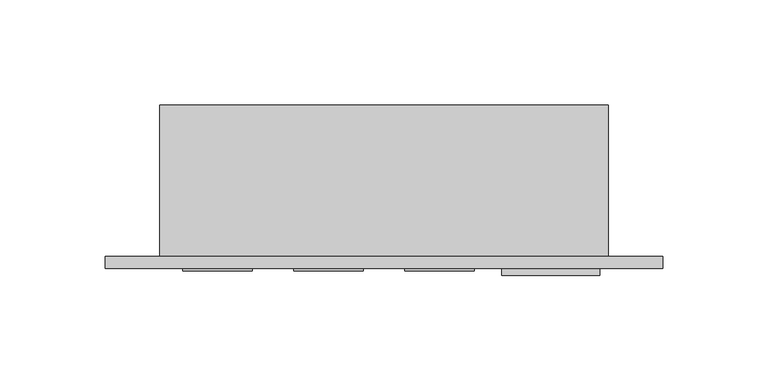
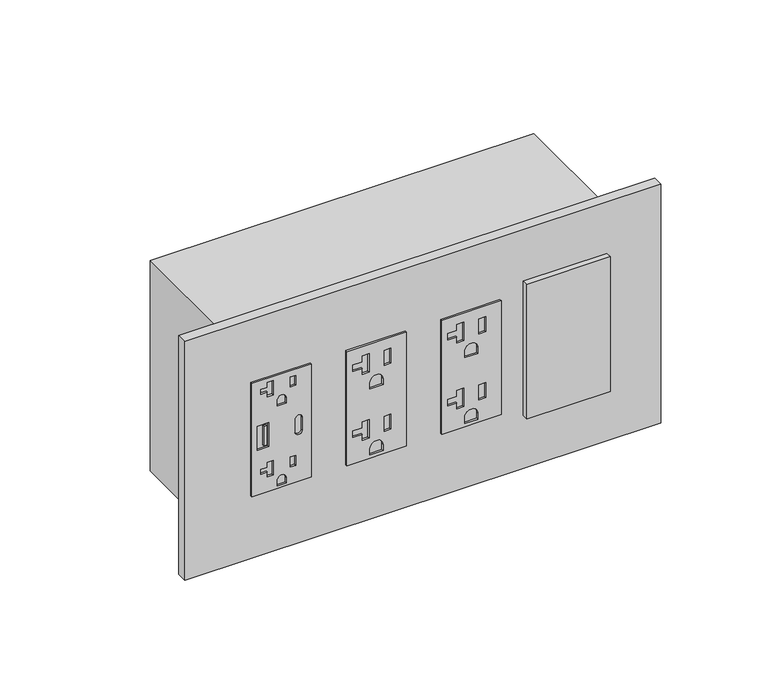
"""IFC4 building model written with IfcOpenShell, lengths in millimetres: proxy geometry, Electrical-Teknion-EPDMQ_Vertical_Power_Data_Quad-R2019 : PD Vertical Module - Quad 20 Amp USB (A+C) & 20 Amp Standard."""

from ifc_helpers import new_model, si_unit, point, frame, frame_2d, origin, place, context, project, spatial, polyline, circle_curve, trimmed, segment, composite_curve, outline, extrude, source, transform, mapped, element, save


def electrical_fixtures_7ee819dc(model_context):
    return source(origin(), model_context, "Body", "SweptSolid", [
        extrude(outline(polyline([(490.474, 11.0998), (423.926, 11.0998), (423.926, 44.0944), (490.474, 44.0944), (490.474, 11.0998)]), holes=[polyline([(464.2485, 14.0236066), (464.2485, 20.5246617), (450.1515, 20.5246617), (450.1515, 14.0236066), (464.2485, 14.0236066)]), composite_curve([segment(trimmed(circle_curve(frame_2d((460.9846, 37.1348)), 1.905), [point((460.9846, 35.2298))], [point((460.9846, 39.0398))], True, "CARTESIAN"), True, "CONTINUOUS"), segment(polyline([(460.9846, 39.0398), (453.4154, 39.0398)]), True, "CONTINUOUS"), segment(trimmed(circle_curve(frame_2d((453.4154, 37.1348)), 1.905), [point((453.4154, 39.0398))], [point((453.4154, 35.2298))], True, "CARTESIAN"), True, "CONTINUOUS"), segment(polyline([(453.4154, 35.2298), (460.9846, 35.2298)]), True, "CONTINUOUS")], self_intersect=False), composite_curve([segment(polyline([(425.45, 30.0609), (425.45, 25.1333), (428.5488, 25.1333)]), True, "CONTINUOUS"), segment(trimmed(circle_curve(frame_2d((428.5488, 27.5971)), 2.4638), [point((428.5488, 25.1333))], [point((428.5488, 30.0609))], True, "CARTESIAN"), True, "CONTINUOUS"), segment(polyline([(428.5488, 30.0609), (425.45, 30.0609)]), True, "CONTINUOUS")], self_intersect=False), polyline([(441.0202, 22.9616), (432.7211661, 22.9616), (432.7211661, 19.6342), (435.4043639, 19.6342), (435.4043639, 16.1036), (438.1419812, 16.1036), (438.1419812, 19.6342), (441.0202, 19.6342), (441.0202, 22.9616)]), composite_curve([segment(polyline([(472.44, 25.1333), (475.5388, 25.1333)]), True, "CONTINUOUS"), segment(trimmed(circle_curve(frame_2d((475.5388, 27.5971)), 2.4638), [point((475.5388, 25.1333))], [point((475.5388, 30.0609))], True, "CARTESIAN"), True, "CONTINUOUS"), segment(polyline([(475.5388, 30.0609), (472.44, 30.0609), (472.44, 25.1333)]), True, "CONTINUOUS")], self_intersect=False), polyline([(480.9574649, 32.4358), (486.7806175, 32.4358), (486.7806175, 35.41014), (480.9574649, 35.41014), (480.9574649, 32.4358)]), polyline([(433.9674649, 32.4358), (439.7906175, 32.4358), (439.7906175, 35.41014), (433.9674649, 35.41014), (433.9674649, 32.4358)]), polyline([(488.0102, 22.9616), (479.7111661, 22.9616), (479.7111661, 19.6342), (482.3943639, 19.6342), (482.3943639, 16.1036), (485.1319812, 16.1036), (485.1319812, 19.6342), (488.0102, 19.6342), (488.0102, 22.9616)])]), frame((0.0, -6.9294746, 0.0), z_axis=(0.0, 1.0, 0.0), x_axis=(0.0, 0.0, 1.0)), (0.0, 0.0, 1.0), 1.0366746),
        extrude(outline(polyline([(19.314835, -6.9294746), (17.7939058, -6.9294746), (17.7939058, -5.8928), (19.314835, -5.8928), (19.314835, -6.9294746)])), frame((0.0, 0.0, 451.4741546), z_axis=(0.0, 0.0, 1.0), x_axis=(1.0, 0.0, 0.0)), (0.0, 0.0, 1.0), 11.4436352),
        extrude(outline(polyline([(490.6772, 149.4282), (490.6772, 116.4336), (423.7228, 116.4336), (423.7228, 149.4282), (490.6772, 149.4282)]), holes=[polyline([(485.2924, 128.778), (474.472, 128.778), (474.472, 124.9426), (477.9518, 124.9426), (477.9518, 119.8372), (481.8126, 119.8372), (481.8126, 124.9426), (485.2924, 124.9426), (485.2924, 128.778)]), polyline([(484.3145, 140.9446), (475.4499, 140.9446), (475.4499, 137.1092), (484.3145, 137.1092), (484.3145, 140.9446)]), composite_curve([segment(polyline([(464.2866, 136.5631), (464.2866, 129.2987), (467.9188, 129.2987)]), True, "CONTINUOUS"), segment(trimmed(circle_curve(frame_2d((467.9188, 132.9309)), 3.6322), [point((467.9188, 129.2987))], [point((467.9188, 136.5631))], True, "CARTESIAN"), True, "CONTINUOUS"), segment(polyline([(467.9188, 136.5631), (464.2866, 136.5631)]), True, "CONTINUOUS")], self_intersect=False), polyline([(446.5574, 128.778), (435.737, 128.778), (435.737, 124.9426), (439.2168, 124.9426), (439.2168, 119.8372), (443.0776, 119.8372), (443.0776, 124.9426), (446.5574, 124.9426), (446.5574, 128.778)]), polyline([(445.5795, 140.9446), (436.7149, 140.9446), (436.7149, 137.1092), (445.5795, 137.1092), (445.5795, 140.9446)]), composite_curve([segment(polyline([(425.5516, 136.5631), (425.5516, 129.2987), (429.1838, 129.2987)]), True, "CONTINUOUS"), segment(trimmed(circle_curve(frame_2d((429.1838, 132.9309)), 3.6322), [point((429.1838, 129.2987))], [point((429.1838, 136.5631))], True, "CARTESIAN"), True, "CONTINUOUS"), segment(polyline([(429.1838, 136.5631), (425.5516, 136.5631)]), True, "CONTINUOUS")], self_intersect=False)]), frame((0.0, -6.9294746, 0.0), z_axis=(0.0, 1.0, 0.0), x_axis=(0.0, 0.0, 1.0)), (0.0, 0.0, 1.0), 1.0366746),
        extrude(outline(polyline([(490.6772, 96.7613), (490.6772, 63.7667), (423.7228, 63.7667), (423.7228, 96.7613), (490.6772, 96.7613)]), holes=[polyline([(485.2924, 76.1111), (474.472, 76.1111), (474.472, 72.2757), (477.9518, 72.2757), (477.9518, 67.1703), (481.8126, 67.1703), (481.8126, 72.2757), (485.2924, 72.2757), (485.2924, 76.1111)]), polyline([(484.3145, 88.2777), (475.4499, 88.2777), (475.4499, 84.4423), (484.3145, 84.4423), (484.3145, 88.2777)]), composite_curve([segment(polyline([(464.2866, 83.8962), (464.2866, 76.6318), (467.9188, 76.6318)]), True, "CONTINUOUS"), segment(trimmed(circle_curve(frame_2d((467.9188, 80.264)), 3.6322), [point((467.9188, 76.6318))], [point((467.9188, 83.8962))], True, "CARTESIAN"), True, "CONTINUOUS"), segment(polyline([(467.9188, 83.8962), (464.2866, 83.8962)]), True, "CONTINUOUS")], self_intersect=False), polyline([(446.5574, 76.1111), (435.737, 76.1111), (435.737, 72.2757), (439.2168, 72.2757), (439.2168, 67.1703), (443.0776, 67.1703), (443.0776, 72.2757), (446.5574, 72.2757), (446.5574, 76.1111)]), polyline([(445.5795, 88.2777), (436.7149, 88.2777), (436.7149, 84.4423), (445.5795, 84.4423), (445.5795, 88.2777)]), composite_curve([segment(polyline([(425.5516, 83.8962), (425.5516, 76.6318), (429.1838, 76.6318)]), True, "CONTINUOUS"), segment(trimmed(circle_curve(frame_2d((429.1838, 80.264)), 3.6322), [point((429.1838, 76.6318))], [point((429.1838, 83.8962))], True, "CARTESIAN"), True, "CONTINUOUS"), segment(polyline([(429.1838, 83.8962), (425.5516, 83.8962)]), True, "CONTINUOUS")], self_intersect=False)]), frame((0.0, -6.9294746, 0.0), z_axis=(0.0, 1.0, 0.0), x_axis=(0.0, 0.0, 1.0)), (0.0, 0.0, 1.0), 1.0366746),
        extrude(outline(polyline([(162.3314, -5.8928), (208.8642, -5.8928), (208.8642, -9.0678), (162.3314, -9.0678), (162.3314, -5.8928)])), frame((0.0, 0.0, 417.9922742), z_axis=(0.0, 0.0, 1.0), x_axis=(1.0, 0.0, 0.0)), (0.0, 0.0, 1.0), 79.0448),
        extrude(outline(polyline([(-25.6794, 0.0), (238.7092, 0.0), (238.7092, -5.8928), (-25.6794, -5.8928), (-25.6794, 0.0)])), frame((0.0, 0.0, 387.0198), z_axis=(0.0, 0.0, 1.0), x_axis=(1.0, 0.0, 0.0)), (0.0, 0.0, 1.0), 140.3604),
        extrude(outline(polyline([(213.0298, 0.0), (0.0, 0.0), (0.0, 71.7296), (213.0298, 71.7296), (213.0298, 0.0)])), frame((0.0, 0.0, 395.4526), z_axis=(0.0, 0.0, 1.0), x_axis=(1.0, 0.0, 0.0)), (0.0, 0.0, 1.0), 123.4948),
    ])


if __name__ == "__main__":
    model = new_model("IFC4")
    model_context = context("Model", 3, world=origin())
    ifc_project = project(units=[si_unit("LENGTHUNIT", "METRE", prefix="MILLI")], contexts=[model_context])
    site = spatial("IfcSite", under=ifc_project)
    building = spatial("IfcBuilding", under=site)
    placement = place(None, origin())
    electrical_fixtures_shape = electrical_fixtures_7ee819dc(model_context)
    element("IfcBuildingElementProxy", 1, Name="Electrical-Teknion-EPDMQ_Vertical_Power_Data_Quad-R2019 : PD Vertical Module - Quad 20 Amp USB (A+C) & 20 Amp Standard", ObjectType="Electrical-Teknion-EPDMQ_Vertical_Power_Data_Quad-R2019 : PD Vertical Module - Quad 20 Amp USB (A+C) & 20 Amp Standard", at=placement, inside=building, context=model_context, shape_type="MappedRepresentation", body=[
        mapped(electrical_fixtures_shape, transform((0.0, 0.0, 0.0), x_axis=(1.0, 0.0, 0.0), y_axis=(0.0, 1.0, 0.0), z_axis=(0.0, 0.0, 1.0))),
    ])
    save(model, "model.ifc")
